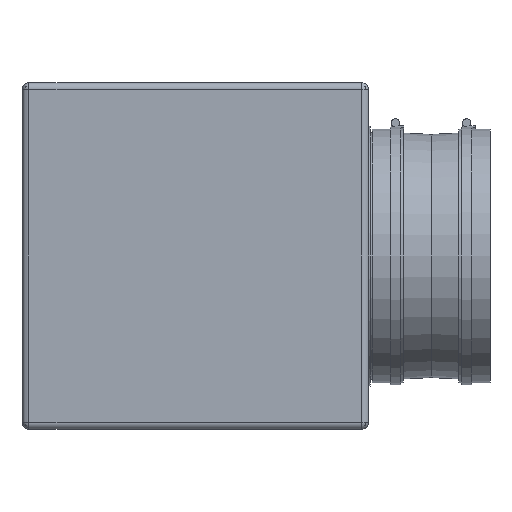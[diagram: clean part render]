
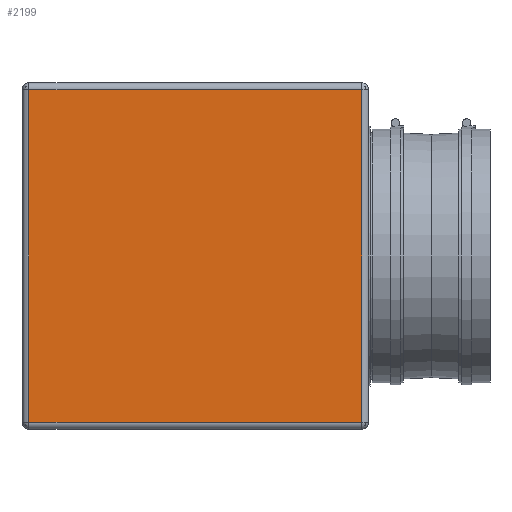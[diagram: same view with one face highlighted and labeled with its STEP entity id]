
A CAD part, left-side view. The second image highlights one B-rep face of the part: STEP entity #2199.
In plain terms, the highlighted planar face has unit normal (-1, 0, 0).
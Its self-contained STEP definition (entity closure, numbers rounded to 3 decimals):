
#112=PLANE('',#2390);
#167=LINE('',#3394,#303);
#170=LINE('',#3427,#306);
#173=LINE('',#3431,#309);
#189=LINE('',#3469,#325);
#303=VECTOR('',#2664,10.);
#306=VECTOR('',#2703,10.);
#309=VECTOR('',#2708,10.);
#325=VECTOR('',#2756,10.);
#507=FACE_OUTER_BOUND('',#646,.T.);
#646=EDGE_LOOP('',(#1598,#1599,#1600,#1601));
#972=VERTEX_POINT('',#3382);
#973=VERTEX_POINT('',#3386);
#976=VERTEX_POINT('',#3396);
#987=VERTEX_POINT('',#3423);
#1201=EDGE_CURVE('',#973,#972,#167,.T.);
#1216=EDGE_CURVE('',#976,#987,#170,.T.);
#1219=EDGE_CURVE('',#987,#973,#173,.T.);
#1241=EDGE_CURVE('',#972,#976,#189,.T.);
#1598=ORIENTED_EDGE('',*,*,#1216,.F.);
#1599=ORIENTED_EDGE('',*,*,#1241,.F.);
#1600=ORIENTED_EDGE('',*,*,#1201,.F.);
#1601=ORIENTED_EDGE('',*,*,#1219,.F.);
#2199=ADVANCED_FACE('',(#507),#112,.T.);
#2390=AXIS2_PLACEMENT_3D('',#3471,#2759,#2760);
#2664=DIRECTION('',(0.,1.,0.));
#2703=DIRECTION('',(0.,-1.,0.));
#2708=DIRECTION('',(0.,0.,-1.));
#2756=DIRECTION('',(0.,0.,1.));
#2759=DIRECTION('center_axis',(-1.,0.,0.));
#2760=DIRECTION('ref_axis',(0.,0.,1.));
#3382=CARTESIAN_POINT('',(-250.,240.,-240.));
#3386=CARTESIAN_POINT('',(-250.,-240.,-240.));
#3394=CARTESIAN_POINT('',(-250.,0.,-240.));
#3396=CARTESIAN_POINT('',(-250.,240.,240.));
#3423=CARTESIAN_POINT('',(-250.,-240.,240.));
#3427=CARTESIAN_POINT('',(-250.,0.,240.));
#3431=CARTESIAN_POINT('',(-250.,-240.,-125.));
#3469=CARTESIAN_POINT('',(-250.,240.,-125.));
#3471=CARTESIAN_POINT('Origin',(-250.,0.,-250.));
